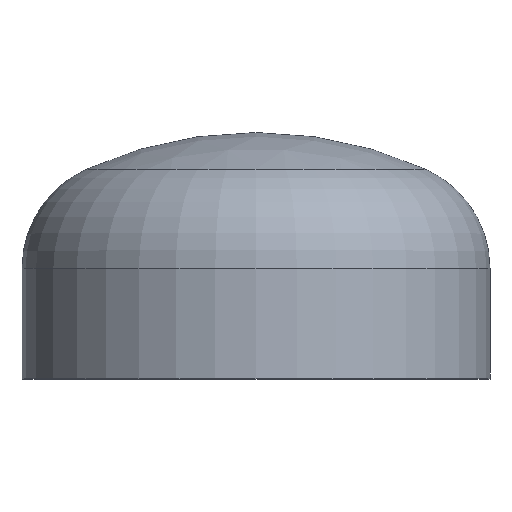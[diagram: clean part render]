
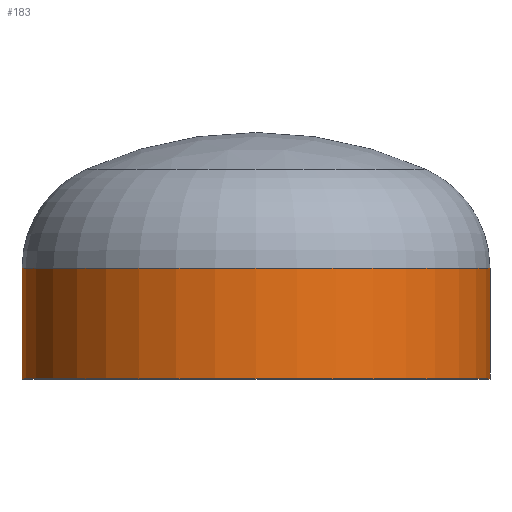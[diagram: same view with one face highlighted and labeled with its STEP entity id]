
A CAD part, top view. The second image highlights one B-rep face of the part: STEP entity #183.
In plain terms, the highlighted cylindrical face has radius 254 mm (diameter 508 mm), a partial arc.
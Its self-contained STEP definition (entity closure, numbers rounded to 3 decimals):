
#6 = ORIENTED_EDGE ( 'NONE', *, *, #136, .F. ) ;
#8 = VERTEX_POINT ( 'NONE', #293 ) ;
#10 = AXIS2_PLACEMENT_3D ( 'NONE', #358, #227, #311 ) ;
#20 = ORIENTED_EDGE ( 'NONE', *, *, #384, .F. ) ;
#29 = VERTEX_POINT ( 'NONE', #355 ) ;
#38 = EDGE_LOOP ( 'NONE', ( #105, #111, #20, #6 ) ) ;
#58 = AXIS2_PLACEMENT_3D ( 'NONE', #165, #161, #164 ) ;
#68 = AXIS2_PLACEMENT_3D ( 'NONE', #142, #212, #376 ) ;
#82 = CIRCLE ( 'NONE', #10, 254. ) ;
#92 = VERTEX_POINT ( 'NONE', #251 ) ;
#105 = ORIENTED_EDGE ( 'NONE', *, *, #295, .T. ) ;
#111 = ORIENTED_EDGE ( 'NONE', *, *, #386, .T. ) ;
#136 = EDGE_CURVE ( 'NONE', #8, #92, #305, .T. ) ;
#142 = CARTESIAN_POINT ( 'NONE',  ( 0., 0., 0. ) ) ;
#146 = VERTEX_POINT ( 'NONE', #313 ) ;
#161 = DIRECTION ( 'NONE',  ( 0., -1., 0. ) ) ;
#164 = DIRECTION ( 'NONE',  ( 1., 0., 0. ) ) ;
#165 = CARTESIAN_POINT ( 'NONE',  ( 0., 120., 0. ) ) ;
#180 = VECTOR ( 'NONE', #349, 1000. ) ;
#183 = ADVANCED_FACE ( 'NONE', ( #235 ), #403, .T. ) ;
#192 = CARTESIAN_POINT ( 'NONE',  ( 254., 0., 0. ) ) ;
#212 = DIRECTION ( 'NONE',  ( 0., -1., 0. ) ) ;
#227 = DIRECTION ( 'NONE',  ( 0., -1., 0. ) ) ;
#235 = FACE_OUTER_BOUND ( 'NONE', #38, .T. ) ;
#249 = VECTOR ( 'NONE', #405, 1000. ) ;
#251 = CARTESIAN_POINT ( 'NONE',  ( 254., 0., 0. ) ) ;
#281 = CIRCLE ( 'NONE', #58, 254. ) ;
#293 = CARTESIAN_POINT ( 'NONE',  ( 254., 120., 0. ) ) ;
#295 = EDGE_CURVE ( 'NONE', #8, #29, #281, .T. ) ;
#305 = LINE ( 'NONE', #192, #180 ) ;
#311 = DIRECTION ( 'NONE',  ( 1., 0., 0. ) ) ;
#313 = CARTESIAN_POINT ( 'NONE',  ( -254., 0., 0. ) ) ;
#349 = DIRECTION ( 'NONE',  ( 0., -1., 0. ) ) ;
#355 = CARTESIAN_POINT ( 'NONE',  ( -254., 120., 0. ) ) ;
#358 = CARTESIAN_POINT ( 'NONE',  ( 0., 0., 0. ) ) ;
#370 = LINE ( 'NONE', #402, #249 ) ;
#376 = DIRECTION ( 'NONE',  ( 1., 0., 0. ) ) ;
#384 = EDGE_CURVE ( 'NONE', #92, #146, #82, .T. ) ;
#386 = EDGE_CURVE ( 'NONE', #29, #146, #370, .T. ) ;
#402 = CARTESIAN_POINT ( 'NONE',  ( -254., 0., 0. ) ) ;
#403 = CYLINDRICAL_SURFACE ( 'NONE', #68, 254. ) ;
#405 = DIRECTION ( 'NONE',  ( 0., -1., 0. ) ) ;
